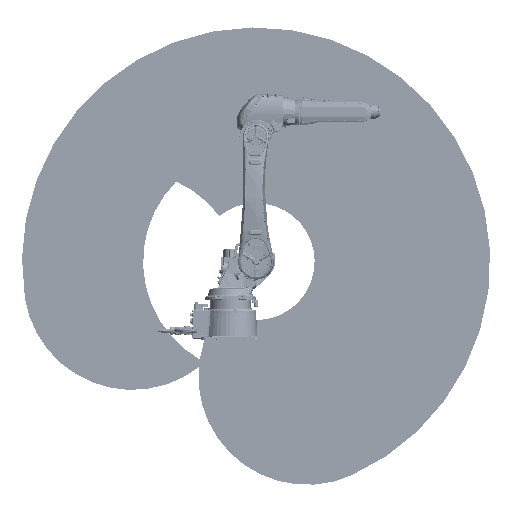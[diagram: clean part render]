
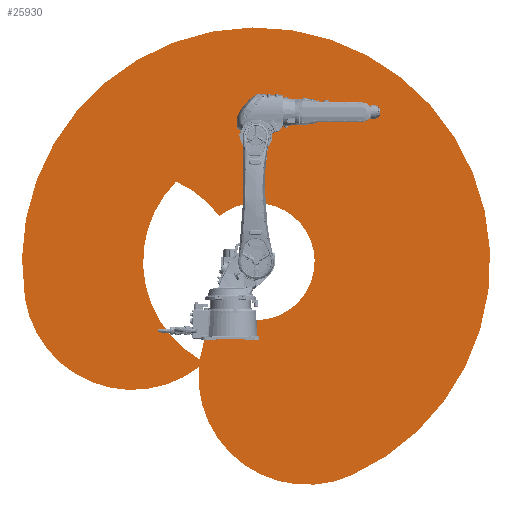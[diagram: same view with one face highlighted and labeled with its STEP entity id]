
A CAD part, front view. The second image highlights one B-rep face of the part: STEP entity #25930.
In plain terms, the highlighted planar face has unit normal (0, -1, 0).
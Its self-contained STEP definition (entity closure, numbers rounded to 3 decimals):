
#6981=FACE_BOUND('',#38600,.T.);
#6982=FACE_BOUND('',#38601,.T.);
#9109=PLANE('',#104640);
#25930=ADVANCED_FACE('',(#6981,#6982),#9109,.T.);
#38600=EDGE_LOOP('',(#68993,#68994,#68995));
#38601=EDGE_LOOP('',(#68996,#68997,#68998,#68999));
#68993=ORIENTED_EDGE('',*,*,#90996,.T.);
#68994=ORIENTED_EDGE('',*,*,#90997,.T.);
#68995=ORIENTED_EDGE('',*,*,#90998,.T.);
#68996=ORIENTED_EDGE('',*,*,#90999,.T.);
#68997=ORIENTED_EDGE('',*,*,#91000,.T.);
#68998=ORIENTED_EDGE('',*,*,#91001,.T.);
#68999=ORIENTED_EDGE('',*,*,#91002,.T.);
#77647=VERTEX_POINT('',#231009);
#77648=VERTEX_POINT('',#231010);
#77649=VERTEX_POINT('',#231012);
#77650=VERTEX_POINT('',#231015);
#77651=VERTEX_POINT('',#231016);
#77652=VERTEX_POINT('',#231018);
#77653=VERTEX_POINT('',#231020);
#90996=EDGE_CURVE('',#77647,#77648,#95474,.T.);
#90997=EDGE_CURVE('',#77648,#77649,#95475,.T.);
#90998=EDGE_CURVE('',#77649,#77647,#95476,.T.);
#90999=EDGE_CURVE('',#77650,#77651,#95477,.T.);
#91000=EDGE_CURVE('',#77651,#77652,#95478,.T.);
#91001=EDGE_CURVE('',#77652,#77653,#95479,.T.);
#91002=EDGE_CURVE('',#77653,#77650,#95480,.T.);
#95474=CIRCLE('',#104633,676.831);
#95475=CIRCLE('',#104634,676.831);
#95476=CIRCLE('',#104635,1456.831);
#95477=CIRCLE('',#104636,676.831);
#95478=CIRCLE('',#104637,364.069);
#95479=CIRCLE('',#104638,676.831);
#95480=CIRCLE('',#104639,703.184);
#104633=AXIS2_PLACEMENT_3D('',#231008,#128545,#128546);
#104634=AXIS2_PLACEMENT_3D('',#231011,#128547,#128548);
#104635=AXIS2_PLACEMENT_3D('',#231013,#128549,#128550);
#104636=AXIS2_PLACEMENT_3D('',#231014,#128551,#128552);
#104637=AXIS2_PLACEMENT_3D('',#231017,#128553,#128554);
#104638=AXIS2_PLACEMENT_3D('',#231019,#128555,#128556);
#104639=AXIS2_PLACEMENT_3D('',#231021,#128557,#128558);
#104640=AXIS2_PLACEMENT_3D('',#231022,#128559,#128560);
#128545=DIRECTION('',(0.,-1.,0.));
#128546=DIRECTION('',(1.,0.,0.));
#128547=DIRECTION('',(0.,-1.,0.));
#128548=DIRECTION('',(1.,0.,0.));
#128549=DIRECTION('',(0.,-1.,0.));
#128550=DIRECTION('',(1.,0.,0.));
#128551=DIRECTION('',(0.,1.,0.));
#128552=DIRECTION('',(1.,0.,0.));
#128553=DIRECTION('',(0.,1.,0.));
#128554=DIRECTION('',(1.,0.,0.));
#128555=DIRECTION('',(0.,-1.,0.));
#128556=DIRECTION('',(1.,0.,0.));
#128557=DIRECTION('',(0.,1.,0.));
#128558=DIRECTION('',(1.,0.,0.));
#128559=DIRECTION('',(0.,-1.,0.));
#128560=DIRECTION('',(0.,0.,1.));
#231008=CARTESIAN_POINT('',(1402.586,4995.999,-122.019));
#231009=CARTESIAN_POINT('',(734.088,4995.999,-227.899));
#231010=CARTESIAN_POINT('',(1815.591,4995.999,-658.234));
#231011=CARTESIAN_POINT('',(2490.238,4995.999,-712.565));
#231012=CARTESIAN_POINT('',(2765.529,4995.999,-1330.881));
#231013=CARTESIAN_POINT('',(2172.983,4995.999,0.));
#231014=CARTESIAN_POINT('',(1402.586,4995.999,-122.019));
#231015=CARTESIAN_POINT('',(1675.764,4995.999,497.234));
#231016=CARTESIAN_POINT('',(1944.516,4995.999,283.459));
#231017=CARTESIAN_POINT('',(2172.983,4995.999,0.));
#231018=CARTESIAN_POINT('',(1958.314,4995.999,-294.047));
#231019=CARTESIAN_POINT('',(2490.238,4995.999,-712.565));
#231020=CARTESIAN_POINT('',(1821.382,4995.999,-608.97));
#231021=CARTESIAN_POINT('',(2172.983,4995.999,0.));
#231022=CARTESIAN_POINT('',(1946.412,4995.999,-417.292));
